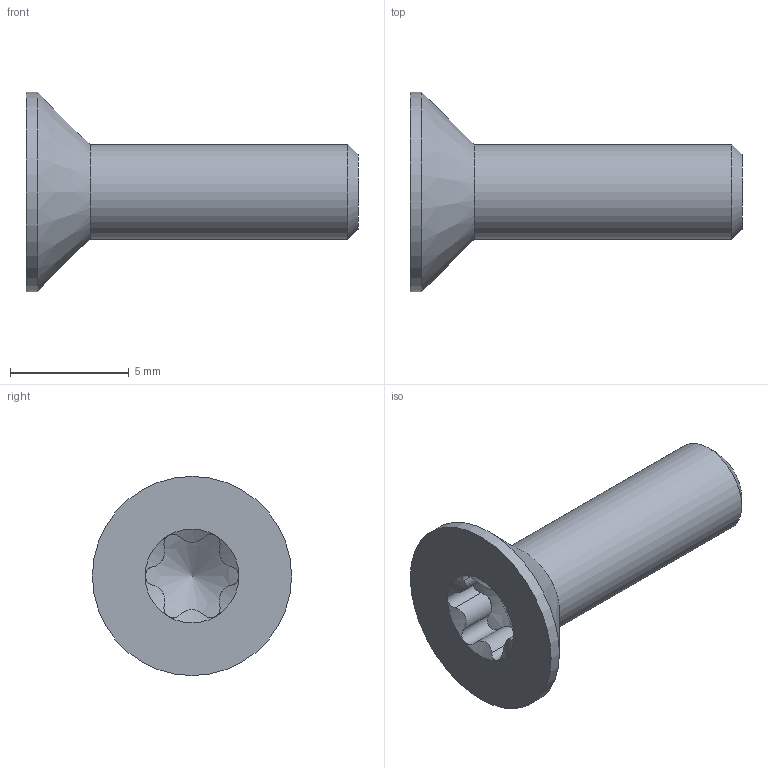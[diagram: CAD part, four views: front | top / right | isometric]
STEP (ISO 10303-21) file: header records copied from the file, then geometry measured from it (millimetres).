
FILE_DESCRIPTION(/* description */ ('BN 3803-Hexalobular (6 Lobe) socket countersunk flat head screws, fully threaded (ISO 14581), stainless steel A2'),/* implementation_level */ '2;1');
FILE_NAME(/* name */ 'C:\ADSK_DMS_WS\Designs\Vorschläge\Loc Schalen\Schraubenlängebestimmung\Schrauben\M4x14 Senkkopfschraube 90°mit TX20 A2.stp',/* time_stamp */ '2021-10-05T14:03:08+02:00',/* author */ ('gm'),/* organization */ ('BOSSARD'),/* preprocessor_version */ 'ST-DEVELOPER v16.5',/* originating_system */ 'Autodesk Inventor 2017',/* authorisation */ '');
FILE_SCHEMA (('AUTOMOTIVE_DESIGN { 1 0 10303 214 3 1 1 }'));
Length unit declared in the file: millimetre
Products named in the file (1): BN 3803  M4x14_INOX A2
Bounding box: 14 x 8.4 x 8.4 mm (x, y, z)
Volume: 219.5 mm3; surface area: 302.4 mm2
Topology: 1 solids, 1 shells, 31 faces, 83 edges, 54 vertices
Faces by surface type: cylinder 14, cone 9, plane 8
Full cylindrical faces by diameter (mm): 4 x1, 8.4 x1
Entity records: 1204 total; most frequent: CARTESIAN_POINT 492, ORIENTED_EDGE 154, DIRECTION 122, EDGE_CURVE 77, AXIS2_PLACEMENT_3D 55, VERTEX_POINT 53, B_SPLINE_CURVE_WITH_KNOTS 42, EDGE_LOOP 36
